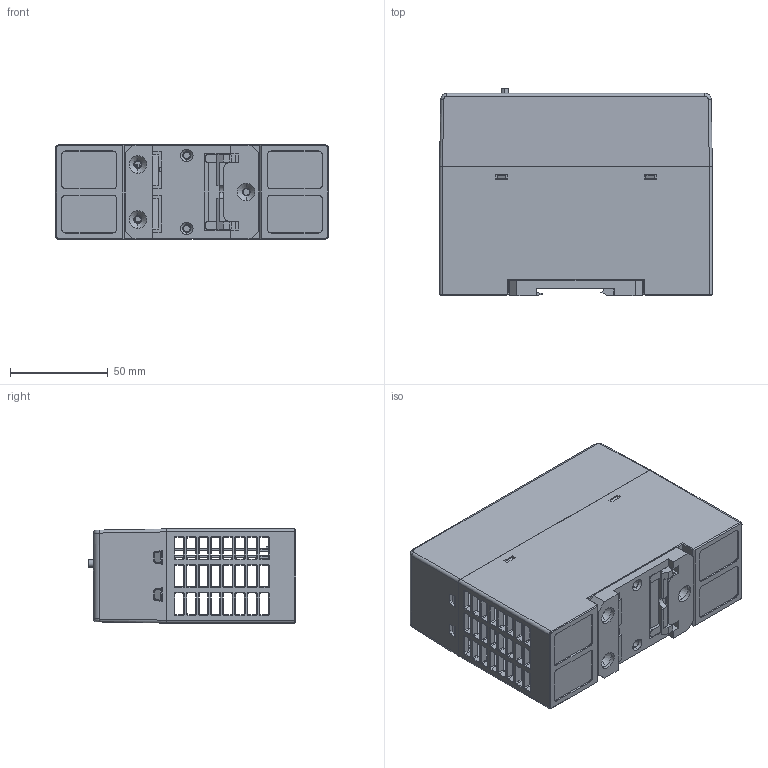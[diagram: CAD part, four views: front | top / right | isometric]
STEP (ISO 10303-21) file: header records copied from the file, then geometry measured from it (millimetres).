
FILE_DESCRIPTION (( 'STEP AP203' ), '1' );
FILE_NAME ('UIG2.STEP', '2022-06-10T14:20:05', ( '' ), ( '' ), 'SwSTEP 2.0', 'SolidWorks 2021', '' );
FILE_SCHEMA (( 'CONFIG_CONTROL_DESIGN' ));
Products named in the file (1): UIG2
Bounding box: 139.77 x 106.41 x 48.28 mm (x, y, z)
Volume: 157559.2 mm3; surface area: 133131.5 mm2
Topology: 17 solids, 17 shells, 4682 faces, 12269 edges, 7896 vertices
Faces by surface type: plane 2815, bspline 974, cylinder 750, cone 87, torus 44, sphere 12
Entity records: 197710 total; most frequent: CARTESIAN_POINT 88707, ORIENTED_EDGE 24524, DIRECTION 19086, EDGE_CURVE 12262, LINE 8606, VECTOR 8606, VERTEX_POINT 7893, AXIS2_PLACEMENT_3D 5240
